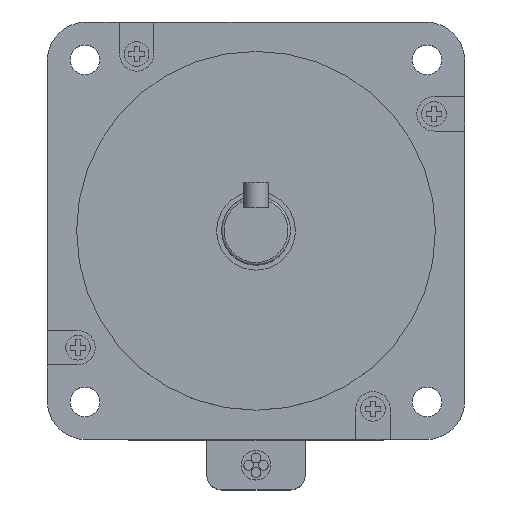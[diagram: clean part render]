
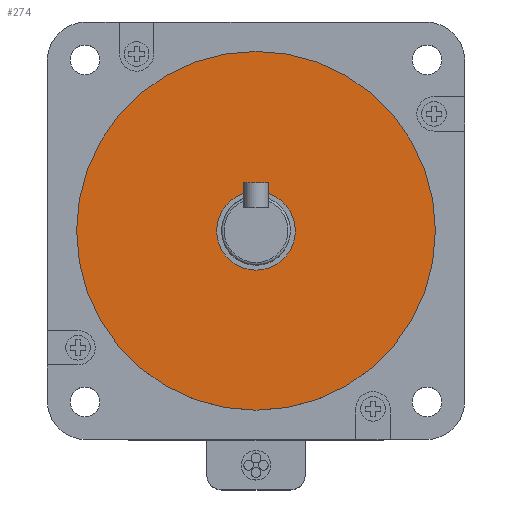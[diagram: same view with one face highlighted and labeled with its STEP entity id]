
A CAD part, top view. The second image highlights one B-rep face of the part: STEP entity #274.
In plain terms, the highlighted planar face has unit normal (0, 0, 1).
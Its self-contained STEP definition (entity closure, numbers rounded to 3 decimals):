
#213=FACE_BOUND('',#800,.T.);
#214=FACE_BOUND('',#801,.T.);
#274=ADVANCED_FACE('',(#213,#214),#472,.T.);
#472=PLANE('',#3904);
#800=EDGE_LOOP('',(#1414));
#801=EDGE_LOOP('',(#1415));
#1098=CIRCLE('',#3899,36.513);
#1099=CIRCLE('',#3901,8.);
#1414=ORIENTED_EDGE('',*,*,#2768,.T.);
#1415=ORIENTED_EDGE('',*,*,#2769,.F.);
#2392=VERTEX_POINT('',#5741);
#2393=VERTEX_POINT('',#5744);
#2768=EDGE_CURVE('',#2392,#2392,#1098,.T.);
#2769=EDGE_CURVE('',#2393,#2393,#1099,.T.);
#3899=AXIS2_PLACEMENT_3D('',#5740,#4506,#4507);
#3901=AXIS2_PLACEMENT_3D('',#5743,#4510,#4511);
#3904=AXIS2_PLACEMENT_3D('',#5748,#4516,#4517);
#4506=DIRECTION('',(0.,0.,1.));
#4507=DIRECTION('',(1.,0.,0.));
#4510=DIRECTION('',(0.,0.,1.));
#4511=DIRECTION('',(1.,0.,0.));
#4516=DIRECTION('',(0.,0.,1.));
#4517=DIRECTION('',(1.,0.,0.));
#5740=CARTESIAN_POINT('',(0.,0.,2.));
#5741=CARTESIAN_POINT('',(36.513,0.,2.));
#5743=CARTESIAN_POINT('',(0.,0.,2.));
#5744=CARTESIAN_POINT('',(8.,0.,2.));
#5748=CARTESIAN_POINT('',(0.,0.,2.));
